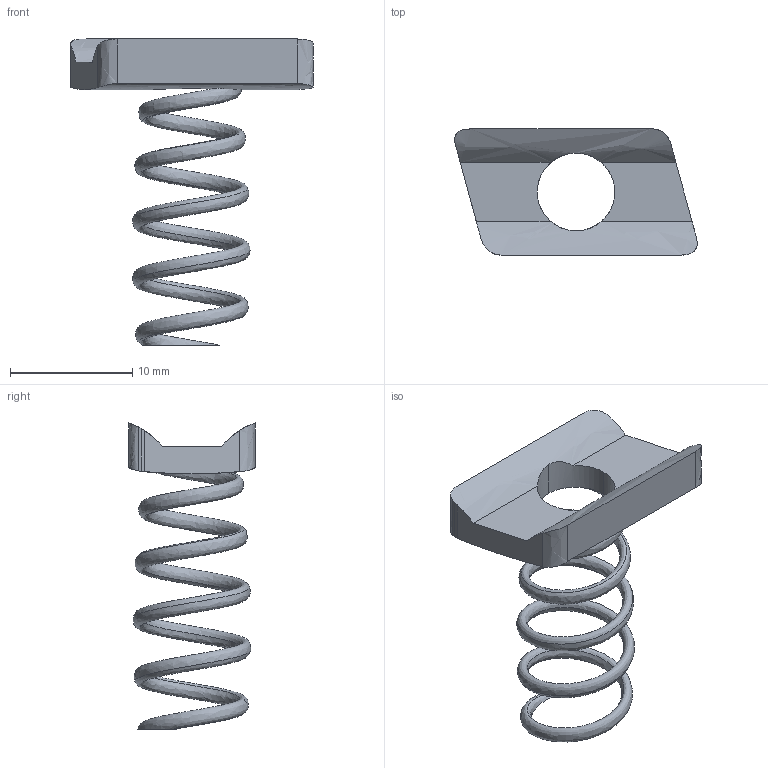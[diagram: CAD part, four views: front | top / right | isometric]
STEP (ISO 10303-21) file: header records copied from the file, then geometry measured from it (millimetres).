
FILE_DESCRIPTION(('TurboCAD Mac Pro'),'Build 980');
FILE_NAME('P6006-1420.stp',' ',(''),(''),'ACIS Interop','IMSI','TurboCAD Mac Pro BY IMSI, INCORPORATED');
FILE_SCHEMA(('automotive_design'));
Length unit declared in the file: inch
Products named in the file (1): 1
Bounding box: 19.82 x 10.31 x 25.01 mm (x, y, z)
Volume: 527.1 mm3; surface area: 968 mm2
Topology: 1 solids, 1 shells, 28 faces, 81 edges, 53 vertices
Faces by surface type: bspline 15, plane 13
Entity records: 3093 total; most frequent: CARTESIAN_POINT 2244, ORIENTED_EDGE 162, EDGE_CURVE 81, DIRECTION 61, VERTEX_POINT 53, B_SPLINE_CURVE_WITH_KNOTS 48, LINE 33, VECTOR 33
